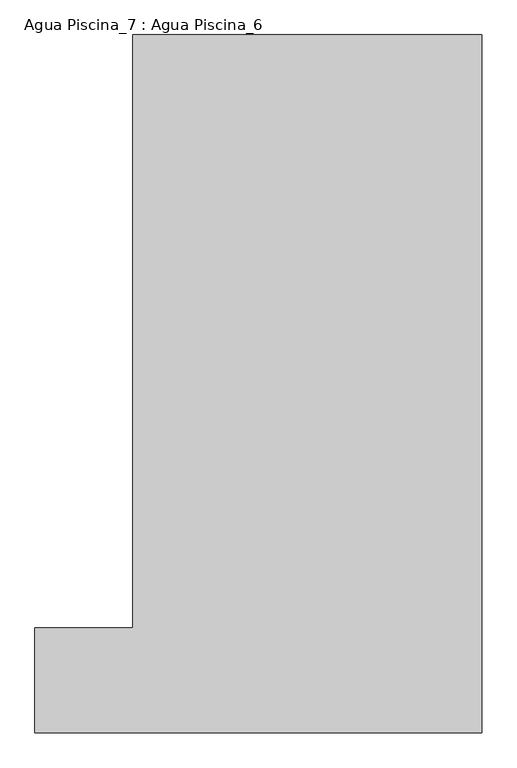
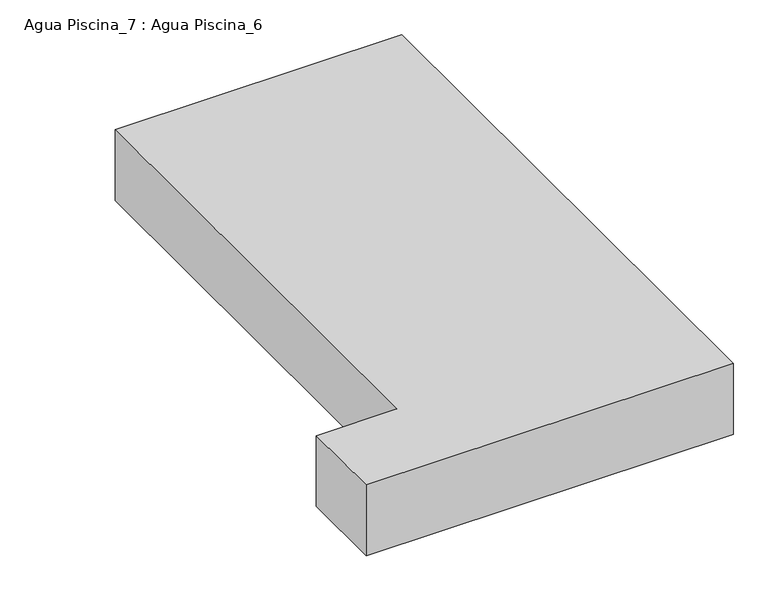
"""IFC4 building model written with IfcOpenShell, lengths in millimetres: proxy geometry, Agua Piscina_7 : Agua Piscina_6."""

from ifc_helpers import new_model, si_unit, frame, origin, place, context, project, spatial, polyline, outline, extrude, source, transform, mapped, element, save


def agua_piscina_7_agua_piscina_6_79f9f0d3(model_context):
    return source(origin(), model_context, "Body", "SweptSolid", [
        extrude(outline(polyline([(12492.2238092, -7579.7308976), (13612.2238092, -7579.7308976), (13612.2238092, -779.7308976), (17612.2238092, -779.7308976), (17612.2238092, -8779.7308976), (12492.2238092, -8779.7308976), (12492.2238092, -7579.7308976)])), frame((0.0, 0.0, -1121.0503906), z_axis=(0.0, 0.0, 1.0), x_axis=(1.0, 0.0, 0.0)), (0.0, 0.0, 1.0), 1044.2474403),
    ])


if __name__ == "__main__":
    model = new_model("IFC4")
    model_context = context("Model", 3, world=origin())
    ifc_project = project(units=[si_unit("LENGTHUNIT", "METRE", prefix="MILLI")], contexts=[model_context])
    site = spatial("IfcSite", under=ifc_project)
    building = spatial("IfcBuilding", under=site)
    placement = place(None, origin())
    agua_piscina_7_agua_piscina_6_shape = agua_piscina_7_agua_piscina_6_79f9f0d3(model_context)
    element("IfcBuildingElementProxy", 1, Name="Agua Piscina_7 : Agua Piscina_6", ObjectType="Agua Piscina_7 : Agua Piscina_6", at=placement, inside=building, context=model_context, shape_type="MappedRepresentation", body=[
        mapped(agua_piscina_7_agua_piscina_6_shape, transform((0.0, 0.0, 0.0), x_axis=(1.0, 0.0, 0.0), y_axis=(0.0, 1.0, 0.0), z_axis=(0.0, 0.0, 1.0))),
    ])
    save(model, "model.ifc")
